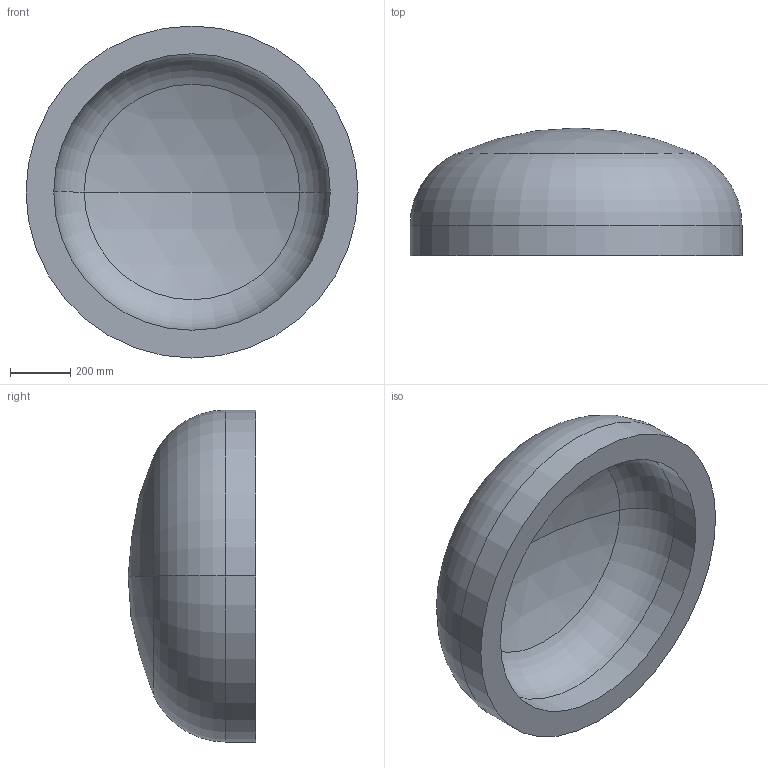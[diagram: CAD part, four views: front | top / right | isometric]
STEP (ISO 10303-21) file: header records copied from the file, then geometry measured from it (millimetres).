
FILE_DESCRIPTION (( 'STEP AP203' ), '1' );
FILE_NAME ('DIN 28013 Korbbogenform_-_Boden DIN 28013 - 1100 x 100 - I - s=92.step', '2016-07-01T09:15:05', ( '' ), ( '' ), 'SwSTEP 2.0', 'SolidWorks 2013', '' );
FILE_SCHEMA (( 'CONFIG_CONTROL_DESIGN' ));
Length unit declared in the file: millimetre
Products named in the file (1): DIN 28013 Korbbogenform_-_Boden DIN 28013 - 1100 x 100 - I - s=92
Bounding box: 1100 x 423.03 x 1100 mm (x, y, z)
Volume: 138268224.3 mm3; surface area: 3314896.1 mm2
Topology: 1 solids, 1 shells, 13 faces, 24 edges, 14 vertices
Faces by surface type: torus 4, cylinder 4, sphere 4, plane 1
Entity records: 407 total; most frequent: DIRECTION 72, CARTESIAN_POINT 52, ORIENTED_EDGE 48, AXIS2_PLACEMENT_3D 34, EDGE_CURVE 24, CIRCLE 20, VERTEX_POINT 14, EDGE_LOOP 14
